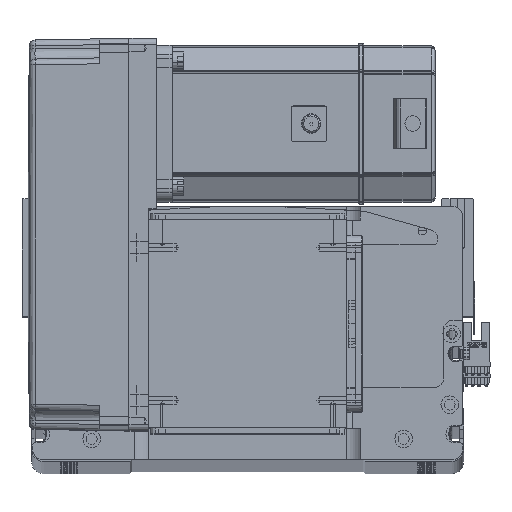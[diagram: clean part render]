
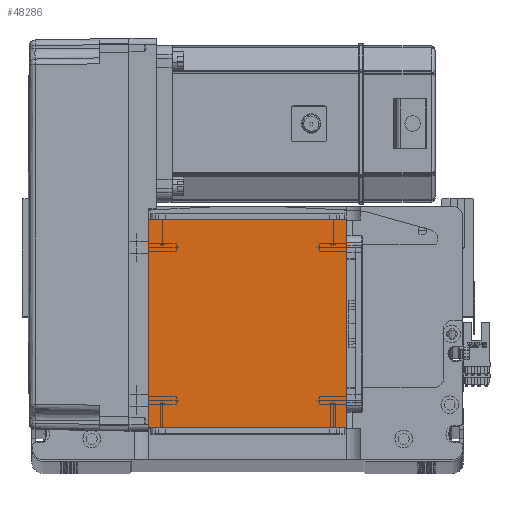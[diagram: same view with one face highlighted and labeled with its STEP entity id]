
A CAD part, top view. The second image highlights one B-rep face of the part: STEP entity #48286.
In plain terms, the highlighted planar face has unit normal (0, 0, 1).
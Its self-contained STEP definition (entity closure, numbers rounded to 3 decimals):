
#1355 = LINE ( 'NONE', #2898, #15924 ) ;
#1474 = EDGE_CURVE ( 'NONE', #7774, #59774, #49750, .T. ) ;
#1554 = DIRECTION ( 'NONE',  ( 1., 0., 0. ) ) ;
#1875 = CARTESIAN_POINT ( 'NONE',  ( 50.5, 122., 115. ) ) ;
#2898 = CARTESIAN_POINT ( 'NONE',  ( -50.5, 16., 115. ) ) ;
#3210 = CARTESIAN_POINT ( 'NONE',  ( -50.5, 16., 115. ) ) ;
#3952 = VECTOR ( 'NONE', #33015, 1000. ) ;
#4103 = ORIENTED_EDGE ( 'NONE', *, *, #12874, .T. ) ;
#6540 = DIRECTION ( 'NONE',  ( 0., 1., 0. ) ) ;
#6727 = VECTOR ( 'NONE', #6540, 1000. ) ;
#6936 = ORIENTED_EDGE ( 'NONE', *, *, #1474, .T. ) ;
#7774 = VERTEX_POINT ( 'NONE', #11088 ) ;
#9258 = AXIS2_PLACEMENT_3D ( 'NONE', #24581, #14990, #1554 ) ;
#11088 = CARTESIAN_POINT ( 'NONE',  ( -50.5, 122., 115. ) ) ;
#11399 = VECTOR ( 'NONE', #14293, 1000. ) ;
#12874 = EDGE_CURVE ( 'NONE', #36962, #7774, #39133, .T. ) ;
#14293 = DIRECTION ( 'NONE',  ( -1., 0., 0. ) ) ;
#14873 = EDGE_LOOP ( 'NONE', ( #6936, #56605, #33234, #4103 ) ) ;
#14990 = DIRECTION ( 'NONE',  ( 0., 0., 1. ) ) ;
#15924 = VECTOR ( 'NONE', #27819, 1000. ) ;
#22363 = CARTESIAN_POINT ( 'NONE',  ( 50.5, 122., 115. ) ) ;
#24581 = CARTESIAN_POINT ( 'NONE',  ( 0., 0., 115. ) ) ;
#27819 = DIRECTION ( 'NONE',  ( 1., 0., 0. ) ) ;
#32252 = LINE ( 'NONE', #1875, #6727 ) ;
#33015 = DIRECTION ( 'NONE',  ( 0., -1., 0. ) ) ;
#33234 = ORIENTED_EDGE ( 'NONE', *, *, #52592, .T. ) ;
#33737 = PLANE ( 'NONE',  #9258 ) ;
#35575 = EDGE_CURVE ( 'NONE', #59774, #54042, #1355, .T. ) ;
#36962 = VERTEX_POINT ( 'NONE', #22363 ) ;
#38358 = CARTESIAN_POINT ( 'NONE',  ( 50.5, 16., 115. ) ) ;
#39133 = LINE ( 'NONE', #56547, #11399 ) ;
#48286 = ADVANCED_FACE ( 'NONE', ( #51090 ), #33737, .T. ) ;
#49750 = LINE ( 'NONE', #60162, #3952 ) ;
#51090 = FACE_OUTER_BOUND ( 'NONE', #14873, .T. ) ;
#52592 = EDGE_CURVE ( 'NONE', #54042, #36962, #32252, .T. ) ;
#54042 = VERTEX_POINT ( 'NONE', #38358 ) ;
#56547 = CARTESIAN_POINT ( 'NONE',  ( -50.5, 122., 115. ) ) ;
#56605 = ORIENTED_EDGE ( 'NONE', *, *, #35575, .T. ) ;
#59774 = VERTEX_POINT ( 'NONE', #3210 ) ;
#60162 = CARTESIAN_POINT ( 'NONE',  ( -50.5, 122., 115. ) ) ;
